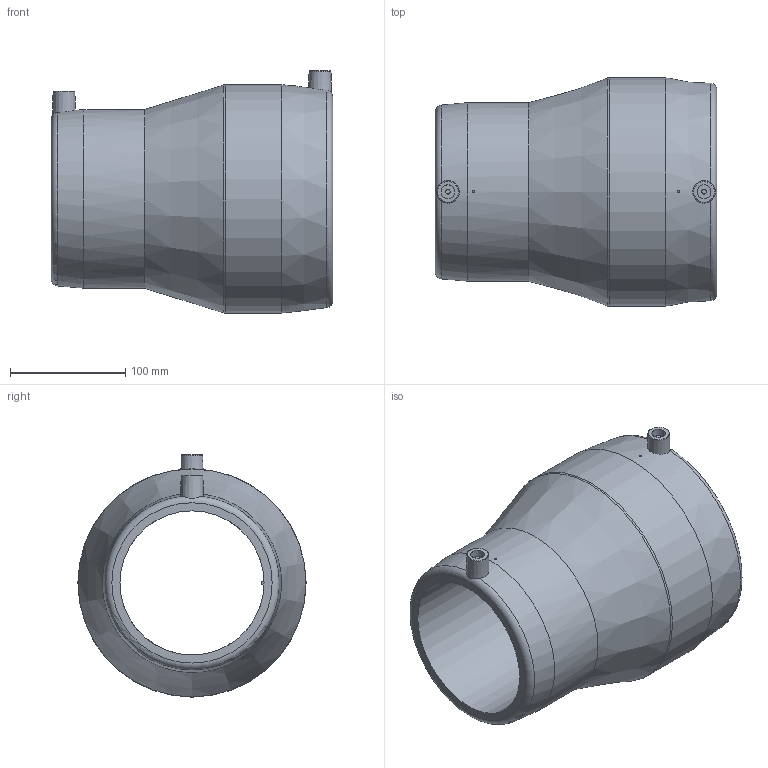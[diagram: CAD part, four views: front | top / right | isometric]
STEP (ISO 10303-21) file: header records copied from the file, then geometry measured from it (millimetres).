
FILE_DESCRIPTION(/* description */ ('Unknown'),/* implementation_level */ '2;1');
FILE_NAME(/* name */ 'REP160125C',/* time_stamp */ '2021-05-25T15:27:54+02:00',/* author */ ('Unknown'),/* organization */ ('Unknown'),/* preprocessor_version */ 'ST-DEVELOPER v16.7',/* originating_system */ 'Solid Edge',/* authorisation */ 'Unknown');
FILE_SCHEMA (('AUTOMOTIVE_DESIGN {1 0 10303 214 3 1 1}'));
Length unit declared in the file: millimetre
Products named in the file (1): REP160125C
Bounding box: 244 x 198 x 210 mm (x, y, z)
Volume: 2103879.3 mm3; surface area: 261798.2 mm2
Topology: 1 solids, 1 shells, 36 faces, 80 edges, 50 vertices
Faces by surface type: plane 15, cylinder 10, cone 6, torus 5
Full cylindrical faces by diameter (mm): 2 x2, 4 x2, 12 x2, 125 x1, 155 x1, 160 x1, 198 x1
Entity records: 852 total; most frequent: CARTESIAN_POINT 180, DIRECTION 142, ORIENTED_EDGE 90, AXIS2_PLACEMENT_3D 66, EDGE_LOOP 65, FACE_BOUND 65, EDGE_CURVE 45, VERTEX_POINT 38
